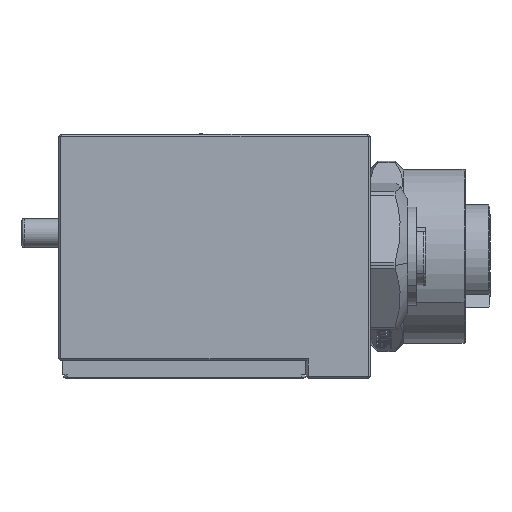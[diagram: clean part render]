
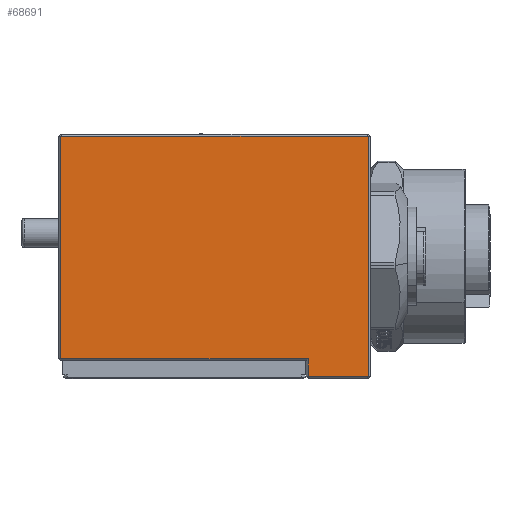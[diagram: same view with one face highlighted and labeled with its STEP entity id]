
A CAD part, front view. The second image highlights one B-rep face of the part: STEP entity #68691.
In plain terms, the highlighted planar face has unit normal (0, -1, 0).
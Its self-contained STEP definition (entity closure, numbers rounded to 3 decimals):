
#922 = LINE ( 'NONE', #57672, #14348 ) ;
#1639 = DIRECTION ( 'NONE',  ( -1., 0., 0. ) ) ;
#2139 = VERTEX_POINT ( 'NONE', #3332 ) ;
#3332 = CARTESIAN_POINT ( 'NONE',  ( 74.317, -75.407, -65.409 ) ) ;
#4321 = VERTEX_POINT ( 'NONE', #32456 ) ;
#4894 = EDGE_CURVE ( 'NONE', #4321, #72113, #34945, .T. ) ;
#5891 = VECTOR ( 'NONE', #1639, 1000. ) ;
#6106 = LINE ( 'NONE', #34538, #54246 ) ;
#6324 = DIRECTION ( 'NONE',  ( 1., 0., 0. ) ) ;
#6653 = CARTESIAN_POINT ( 'NONE',  ( 32.017, -75.407, -65.409 ) ) ;
#7002 = DIRECTION ( 'NONE',  ( 0., 0., 1. ) ) ;
#11501 = EDGE_CURVE ( 'NONE', #67284, #27196, #30551, .T. ) ;
#11734 = ORIENTED_EDGE ( 'NONE', *, *, #14821, .T. ) ;
#13769 = EDGE_CURVE ( 'NONE', #27196, #36896, #6106, .T. ) ;
#14319 = EDGE_CURVE ( 'NONE', #72113, #2139, #66627, .T. ) ;
#14348 = VECTOR ( 'NONE', #56582, 1000. ) ;
#14821 = EDGE_CURVE ( 'NONE', #2139, #67284, #41636, .T. ) ;
#14927 = CARTESIAN_POINT ( 'NONE',  ( 32.317, -75.407, -95.809 ) ) ;
#14929 = CARTESIAN_POINT ( 'NONE',  ( 74.317, -75.407, -98.209 ) ) ;
#15037 = ORIENTED_EDGE ( 'NONE', *, *, #32813, .T. ) ;
#24810 = EDGE_LOOP ( 'NONE', ( #26220, #46261, #15037, #37634, #32295, #11734 ) ) ;
#26220 = ORIENTED_EDGE ( 'NONE', *, *, #11501, .T. ) ;
#27196 = VERTEX_POINT ( 'NONE', #14927 ) ;
#27750 = CARTESIAN_POINT ( 'NONE',  ( 74.317, -75.407, -65.109 ) ) ;
#27812 = VECTOR ( 'NONE', #73500, 1000. ) ;
#28425 = CARTESIAN_POINT ( 'NONE',  ( 74.317, -75.407, -98.209 ) ) ;
#29304 = VECTOR ( 'NONE', #7002, 1000. ) ;
#30551 = LINE ( 'NONE', #58929, #41236 ) ;
#32295 = ORIENTED_EDGE ( 'NONE', *, *, #14319, .T. ) ;
#32456 = CARTESIAN_POINT ( 'NONE',  ( 66.117, -75.407, -98.209 ) ) ;
#32813 = EDGE_CURVE ( 'NONE', #36896, #4321, #922, .T. ) ;
#34538 = CARTESIAN_POINT ( 'NONE',  ( 32.017, -75.407, -95.809 ) ) ;
#34945 = LINE ( 'NONE', #28425, #27812 ) ;
#35298 = DIRECTION ( 'NONE',  ( 0., 0., 1. ) ) ;
#36330 = CARTESIAN_POINT ( 'NONE',  ( 66.117, -75.407, -95.809 ) ) ;
#36896 = VERTEX_POINT ( 'NONE', #36330 ) ;
#37634 = ORIENTED_EDGE ( 'NONE', *, *, #4894, .T. ) ;
#38882 = FACE_OUTER_BOUND ( 'NONE', #24810, .T. ) ;
#40265 = DIRECTION ( 'NONE',  ( 0., -1., 0. ) ) ;
#41236 = VECTOR ( 'NONE', #48010, 1000. ) ;
#41636 = LINE ( 'NONE', #6653, #5891 ) ;
#46230 = PLANE ( 'NONE',  #66455 ) ;
#46261 = ORIENTED_EDGE ( 'NONE', *, *, #13769, .T. ) ;
#48010 = DIRECTION ( 'NONE',  ( 0., 0., -1. ) ) ;
#54246 = VECTOR ( 'NONE', #6324, 1000. ) ;
#56582 = DIRECTION ( 'NONE',  ( 0., 0., -1. ) ) ;
#57672 = CARTESIAN_POINT ( 'NONE',  ( 66.117, -75.407, -98.509 ) ) ;
#58929 = CARTESIAN_POINT ( 'NONE',  ( 32.317, -75.407, -65.109 ) ) ;
#66455 = AXIS2_PLACEMENT_3D ( 'NONE', #69174, #40265, #35298 ) ;
#66611 = CARTESIAN_POINT ( 'NONE',  ( 32.317, -75.407, -65.409 ) ) ;
#66627 = LINE ( 'NONE', #27750, #29304 ) ;
#67284 = VERTEX_POINT ( 'NONE', #66611 ) ;
#68691 = ADVANCED_FACE ( 'NONE', ( #38882 ), #46230, .T. ) ;
#69174 = CARTESIAN_POINT ( 'NONE',  ( 32.017, -75.407, -65.109 ) ) ;
#72113 = VERTEX_POINT ( 'NONE', #14929 ) ;
#73500 = DIRECTION ( 'NONE',  ( 1., 0., 0. ) ) ;
